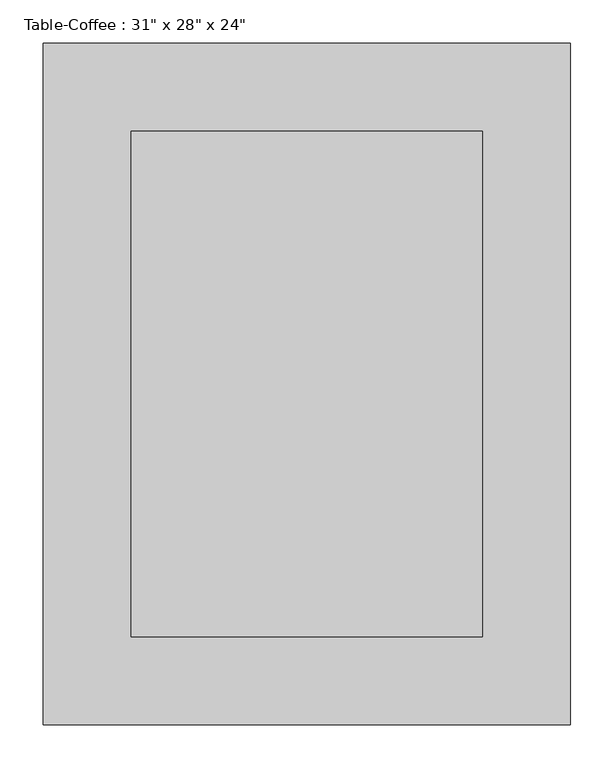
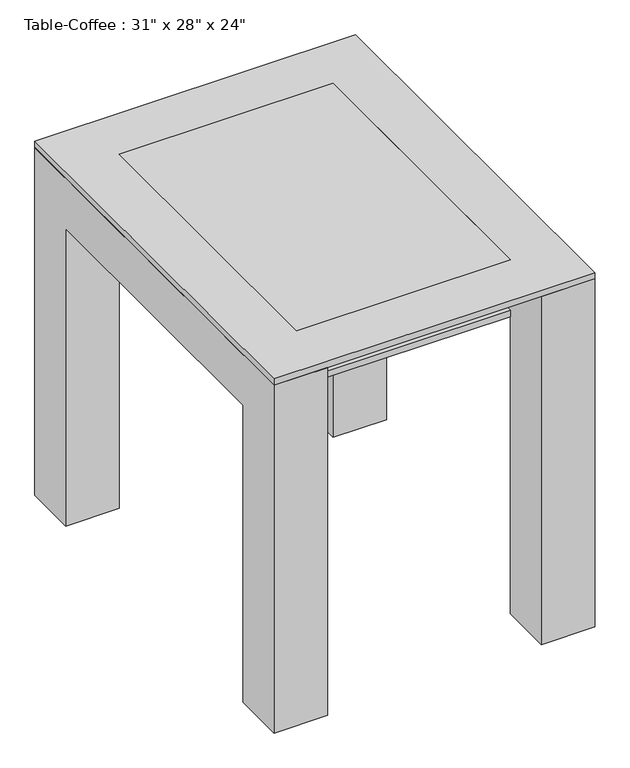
"""IFC4 building model written with IfcOpenShell, lengths in millimetres: furniture geometry."""

import ifcopenshell
import ifcopenshell.guid

model = None  # the IFC model being written
_history = None  # IfcOwnerHistory: only IFC2X3 demands one
_inside = {}  # id of a spatial element -> (the spatial element, [elements in it])
_under = {}  # id of a project, library or spatial element -> (it, [spatial elements below it])
_declared = {}  # id of a project -> (the project, [libraries it declares])
_typed = {}  # id of a type object -> (the type object, [elements of that type])
_made_of = {}  # id of a material, layer set ... -> (it, [elements and type objects made of it])


def new_model(schema):
    """Start an empty IFC model of exactly this schema.

    Asked for "IFC4X3", IfcOpenShell would pick the latest addendum, in which some entities
    have other attributes; the version numbers below select the first issue.
    IFC2X3 requires an IfcOwnerHistory on every rooted entity: one is made here for all.
    """
    global model, _history
    if schema == "IFC4X3":
        model = ifcopenshell.file(schema_version=(4, 3, 0, 0))
    else:
        model = ifcopenshell.file(schema=schema)
    _inside.clear()
    _under.clear()
    _declared.clear()
    _typed.clear()
    _made_of.clear()
    _history = None
    if model.schema == "IFC2X3":
        org = make("IfcOrganization", Name="unknown")
        user = make(
            "IfcPersonAndOrganization",
            ThePerson=make("IfcPerson", FamilyName="unknown"),
            TheOrganization=org,
        )
        app = make(
            "IfcApplication",
            ApplicationDeveloper=org,
            Version="unknown",
            ApplicationFullName="unknown",
            ApplicationIdentifier="unknown",
        )
        _history = make(
            "IfcOwnerHistory",
            OwningUser=user,
            OwningApplication=app,
            ChangeAction="ADDED",
            CreationDate=0,
        )
    return model


def make(cls, **values):
    """One entity of the class cls with the attributes given. An attribute that is None is left unset."""
    return model.create_entity(
        cls, **{name: value for name, value in values.items() if value is not None}
    )


def rooted(cls, **values):
    """An entity with a GlobalId (a new one), such as an element, a storey or a relation."""
    return make(cls, GlobalId=ifcopenshell.guid.new(), OwnerHistory=_history, **values)


def si_unit(unit_type, name, prefix=None):
    """IfcSIUnit, for example si_unit("LENGTHUNIT", "METRE", prefix="MILLI")."""
    return make("IfcSIUnit", UnitType=unit_type, Prefix=prefix, Name=name)


def assignment(units):
    """IfcUnitAssignment: the units of a project."""
    return None if units is None else make("IfcUnitAssignment", Units=units)


def point(xyz):
    """IfcCartesianPoint."""
    return None if xyz is None else make("IfcCartesianPoint", Coordinates=xyz)


def direction(xyz):
    """IfcDirection."""
    return None if xyz is None else make("IfcDirection", DirectionRatios=xyz)


def frame(location, z_axis=None, x_axis=None):
    """IfcAxis2Placement3D, a coordinate frame: its origin and axes. An axis left out is left unset."""
    return make(
        "IfcAxis2Placement3D",
        Location=point(location),
        Axis=direction(z_axis),
        RefDirection=direction(x_axis),
    )


def origin():
    """The frame at (0, 0, 0) with its axes left unset."""
    return frame((0.0, 0.0, 0.0))


def place(relative_to, where):
    """IfcLocalPlacement: puts the frame where relative to a parent placement (None: the world)."""
    return make(
        "IfcLocalPlacement", PlacementRelTo=relative_to, RelativePlacement=where
    )


def context(
    kind, dimensions, precision=None, world=None, true_north=None, identifier=None
):
    """IfcGeometricRepresentationContext, for example the 3D "Model" context."""
    return make(
        "IfcGeometricRepresentationContext",
        ContextIdentifier=identifier,
        ContextType=kind,
        CoordinateSpaceDimension=dimensions,
        Precision=precision,
        WorldCoordinateSystem=world,
        TrueNorth=true_north,
    )


def project(units=None, contexts=None):
    """IfcProject with its units and contexts."""
    return rooted(
        "IfcProject",
        Name="project",
        RepresentationContexts=contexts,
        UnitsInContext=assignment(units),
    )


def spatial(cls, under=None, at=None, **own):
    """A site, building, storey or space (cls), placed at a placement, below another one or the project."""
    s = rooted(cls, ObjectPlacement=at, **own)
    if under is not None:
        _under.setdefault(under.id(), (under, []))[1].append(s)
    return s


def polyline(points):
    """IfcPolyline through the points."""
    return make("IfcPolyline", Points=[point(p) for p in points])


def outline(outer, holes=None, kind="AREA"):
    """IfcArbitraryClosedProfileDef: a profile drawn as a closed curve; with holes, ...WithVoids."""
    if holes is None:
        return make("IfcArbitraryClosedProfileDef", ProfileType=kind, OuterCurve=outer)
    return make(
        "IfcArbitraryProfileDefWithVoids",
        ProfileType=kind,
        OuterCurve=outer,
        InnerCurves=holes,
    )


def extrude(swept, where, along, depth):
    """IfcExtrudedAreaSolid: the profile swept, set in the frame where, extruded along a direction by depth."""
    return make(
        "IfcExtrudedAreaSolid",
        SweptArea=swept,
        Position=where,
        ExtrudedDirection=direction(along),
        Depth=depth,
    )


def shape(context_of_items, identifier, shape_type, items):
    """IfcShapeRepresentation: the items that make up one representation, for example the "Body"."""
    return make(
        "IfcShapeRepresentation",
        ContextOfItems=context_of_items,
        RepresentationIdentifier=identifier,
        RepresentationType=shape_type,
        Items=items,
    )


def source(mapping_origin, context_of_items, identifier, shape_type, items):
    """IfcRepresentationMap: a shape defined once, which mapped items show again and again."""
    return make(
        "IfcRepresentationMap",
        MappingOrigin=mapping_origin,
        MappedRepresentation=shape(context_of_items, identifier, shape_type, items),
    )


def transform(
    local_origin,
    x_axis=None,
    y_axis=None,
    z_axis=None,
    scale=None,
    scale2=None,
    scale3=None,
    uniform=True,
):
    """IfcCartesianTransformationOperator3D, or its non-uniform kind. x_axis, y_axis, z_axis: its Axis1, 2, 3."""
    if uniform:
        return make(
            "IfcCartesianTransformationOperator3D",
            Axis1=direction(x_axis),
            Axis2=direction(y_axis),
            LocalOrigin=point(local_origin),
            Scale=scale,
            Axis3=direction(z_axis),
        )
    return make(
        "IfcCartesianTransformationOperator3DnonUniform",
        Axis1=direction(x_axis),
        Axis2=direction(y_axis),
        LocalOrigin=point(local_origin),
        Scale=scale,
        Axis3=direction(z_axis),
        Scale2=scale2,
        Scale3=scale3,
    )


def mapped(mapping_source, mapping_target):
    """IfcMappedItem: shows the shape of a source again, moved by a transform."""
    return make(
        "IfcMappedItem", MappingSource=mapping_source, MappingTarget=mapping_target
    )


def made_of(thing, what):
    """Note that an element or type object is made of a material, layer set ...; save() writes the relation."""
    if what is not None:
        _made_of.setdefault(what.id(), (what, []))[1].append(thing)
    return thing


def element(
    cls,
    number,
    at=None,
    inside=None,
    cuts=None,
    type_object=None,
    material=None,
    context=None,
    identifier="Body",
    shape_type=None,
    held_by="IfcProductDefinitionShape",
    body=None,
    shapes=None,
    **own,
):
    """One element of the class cls, such as IfcWall. Its Tag is "e" and its number.

    at: its placement. inside: the storey or other place that contains it. cuts: it is an
    opening in that element (IfcRelVoidsElement). A single representation is given by context,
    identifier, shape_type and body (its items); several are given by shapes. held_by: the class
    of the entity that holds the representations. save() writes the other relations.
    """
    e = rooted(cls, Tag="e%d" % number, ObjectPlacement=at, **own)
    if body is not None:
        shapes = [shape(context, identifier, shape_type, body)]
    if shapes is not None:
        e.Representation = make(held_by, Representations=shapes)
    if inside is not None:
        _inside.setdefault(inside.id(), (inside, []))[1].append(e)
    if cuts is not None:
        rooted(
            "IfcRelVoidsElement", RelatingBuildingElement=cuts, RelatedOpeningElement=e
        )
    if type_object is not None:
        _typed.setdefault(type_object.id(), (type_object, []))[1].append(e)
    return made_of(e, material)


def aggregate(whole, parts):
    """IfcRelAggregates: a whole, such as a stair, and the parts it consists of."""
    return rooted("IfcRelAggregates", RelatingObject=whole, RelatedObjects=parts)


def save(model, path):
    """Write the relations noted so far, then the file.

    IfcRelAggregates (storeys below a building ...), IfcRelContainedInSpatialStructure (elements
    in a storey), IfcRelDefinesByType, IfcRelAssociatesMaterial and IfcRelDeclares: one each for
    every whole, place, type object, material and project.
    """
    for whole, parts in _under.values():
        aggregate(whole, parts)
    for where, things in _inside.values():
        rooted(
            "IfcRelContainedInSpatialStructure",
            RelatedElements=things,
            RelatingStructure=where,
        )
    for kind, things in _typed.values():
        rooted("IfcRelDefinesByType", RelatedObjects=things, RelatingType=kind)
    for what, things in _made_of.values():
        rooted("IfcRelAssociatesMaterial", RelatedObjects=things, RelatingMaterial=what)
    for by, libraries in _declared.values():
        rooted("IfcRelDeclares", RelatingContext=by, RelatedDefinitions=libraries)
    model.write(path)


def furniture_5f90431c(model_context):
    return source(origin(), model_context, "Body", "SweptSolid", [
        extrude(outline(polyline([(221.4657667, 387.3110778), (221.4657667, -196.8889222), (-184.9342333, -196.8889222), (-184.9342333, 387.3110778), (221.4657667, 387.3110778)])), frame((0.0, 0.0, 596.9), z_axis=(0.0, 0.0, 1.0), x_axis=(1.0, 0.0, 0.0)), (0.0, 0.0, 1.0), 12.7),
        extrude(outline(polyline([(488.9110778, 0.0), (387.3110778, 0.0), (387.3110778, 596.9), (-196.8889222, 596.9), (-196.8889222, 0.0), (-298.4889222, 0.0), (-298.4889222, 698.5), (488.9110778, 698.5), (488.9110778, 0.0)])), frame((221.4657667, 0.0, 0.0), z_axis=(1.0, 0.0, 0.0), x_axis=(0.0, 1.0, 0.0)), (0.0, 0.0, 1.0), 101.6),
        extrude(outline(polyline([(488.9110778, 698.5), (488.9110778, 0.0), (387.3110778, 0.0), (387.3110778, 596.9), (-196.8889222, 596.9), (-196.8889222, 0.0), (-298.4889222, 0.0), (-298.4889222, 698.5), (488.9110778, 698.5)])), frame((-286.5342333, 0.0, 0.0), z_axis=(1.0, 0.0, 0.0), x_axis=(0.0, 1.0, 0.0)), (0.0, 0.0, 1.0), 101.6),
        extrude(outline(polyline([(221.4657667, 387.3110778), (221.4657667, -196.8889222), (-184.9342333, -196.8889222), (-184.9342333, 387.3110778), (221.4657667, 387.3110778)])), frame((0.0, 0.0, 698.5), z_axis=(0.0, 0.0, 1.0), x_axis=(1.0, 0.0, 0.0)), (0.0, 0.0, 1.0), 12.7),
        extrude(outline(polyline([(323.0657667, 488.9110778), (323.0657667, -298.4889222), (-286.5342333, -298.4889222), (-286.5342333, 488.9110778), (323.0657667, 488.9110778)]), holes=[polyline([(221.4657667, 387.3110778), (-184.9342333, 387.3110778), (-184.9342333, -196.8889222), (221.4657667, -196.8889222), (221.4657667, 387.3110778)])]), frame((0.0, 0.0, 698.5), z_axis=(0.0, 0.0, 1.0), x_axis=(1.0, 0.0, 0.0)), (0.0, 0.0, 1.0), 12.7),
    ])


if __name__ == "__main__":
    model = new_model("IFC4")
    model_context = context("Model", 3, world=origin())
    ifc_project = project(units=[si_unit("LENGTHUNIT", "METRE", prefix="MILLI")], contexts=[model_context])
    site = spatial("IfcSite", under=ifc_project)
    building = spatial("IfcBuilding", under=site)
    placement = place(None, origin())
    furniture_shape = furniture_5f90431c(model_context)
    element("IfcFurniture", 1, ObjectType="Table-Coffee : 31\" x 28\" x 24\"", at=placement, inside=building, context=model_context, shape_type="MappedRepresentation", body=[
        mapped(furniture_shape, transform((0.0, 0.0, 0.0), x_axis=(1.0, 0.0, 0.0), y_axis=(0.0, 1.0, 0.0), z_axis=(0.0, 0.0, 1.0))),
    ])
    save(model, "model.ifc")
